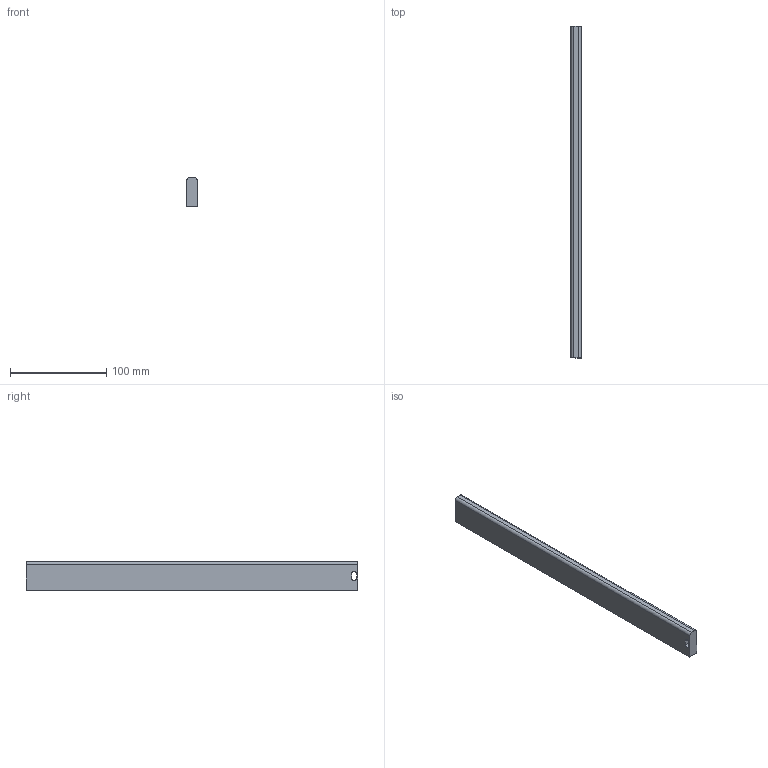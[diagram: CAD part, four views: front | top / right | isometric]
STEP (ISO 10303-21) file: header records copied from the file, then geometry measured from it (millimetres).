
FILE_DESCRIPTION (( 'STEP AP214' ), '1' );
FILE_NAME ('_Seitenreling_S610000200_RL345.step', '2010-09-06T14:51:17', ( 'grass' ), ( '' ), 'SwSTEP 2.0', 'SolidWorks 2010', '' );
FILE_SCHEMA (( 'AUTOMOTIVE_DESIGN' ));
Length unit declared in the file: millimetre
Products named in the file (1): _Seitenreling_S610000200_RL345
Bounding box: 10.5 x 345 x 30 mm (x, y, z)
Volume: 106873.7 mm3; surface area: 27859.5 mm2
Topology: 1 solids, 1 shells, 12 faces, 30 edges, 20 vertices
Faces by surface type: plane 8, cylinder 4
Entity records: 400 total; most frequent: DIRECTION 64, CARTESIAN_POINT 63, ORIENTED_EDGE 60, EDGE_CURVE 30, LINE 22, VECTOR 22, AXIS2_PLACEMENT_3D 21, VERTEX_POINT 20
